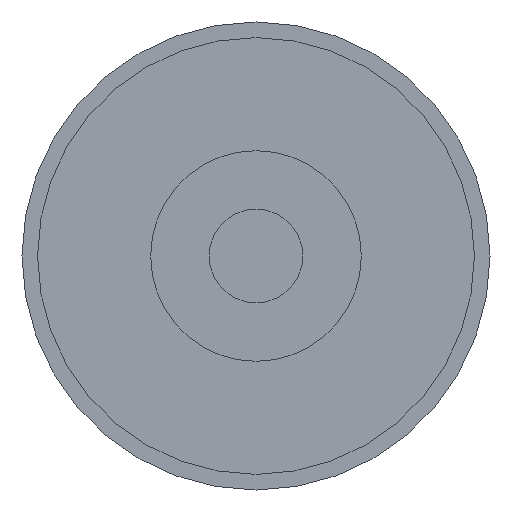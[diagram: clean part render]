
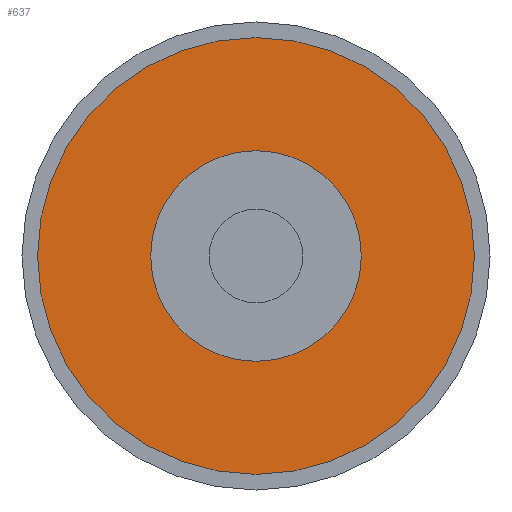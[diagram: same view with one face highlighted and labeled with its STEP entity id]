
A CAD part, front view. The second image highlights one B-rep face of the part: STEP entity #637.
In plain terms, the highlighted planar face has unit normal (0, -1, 0).
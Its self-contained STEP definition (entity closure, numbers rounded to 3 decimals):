
#151 = DIRECTION ( 'NONE',  ( 0., 1., 0. ) ) ;
#225 = CARTESIAN_POINT ( 'NONE',  ( 0., 0., 13.5 ) ) ;
#280 = DIRECTION ( 'NONE',  ( 0., 0., 1. ) ) ;
#491 = CIRCLE ( 'NONE', #4697, 28. ) ;
#637 = ADVANCED_FACE ( 'NONE', ( #3528, #4116 ), #11536, .F. ) ;
#1320 = EDGE_LOOP ( 'NONE', ( #10916, #9909 ) ) ;
#1346 = EDGE_CURVE ( 'NONE', #1584, #6478, #10179, .T. ) ;
#1584 = VERTEX_POINT ( 'NONE', #10639 ) ;
#1810 = DIRECTION ( 'NONE',  ( 0., -1., 0. ) ) ;
#2074 = DIRECTION ( 'NONE',  ( 0., 1., 0. ) ) ;
#2794 = CARTESIAN_POINT ( 'NONE',  ( 0., 0., 0. ) ) ;
#3214 = EDGE_LOOP ( 'NONE', ( #8502, #11801 ) ) ;
#3528 = FACE_OUTER_BOUND ( 'NONE', #1320, .T. ) ;
#3571 = VERTEX_POINT ( 'NONE', #11885 ) ;
#3739 = DIRECTION ( 'NONE',  ( 0., 0., -1. ) ) ;
#3917 = EDGE_CURVE ( 'NONE', #3571, #10137, #10913, .T. ) ;
#4116 = FACE_BOUND ( 'NONE', #3214, .T. ) ;
#4697 = AXIS2_PLACEMENT_3D ( 'NONE', #7694, #2074, #8633 ) ;
#5455 = AXIS2_PLACEMENT_3D ( 'NONE', #8652, #5884, #280 ) ;
#5751 = CARTESIAN_POINT ( 'NONE',  ( 0., 0., 0. ) ) ;
#5884 = DIRECTION ( 'NONE',  ( 0., 1., 0. ) ) ;
#6314 = AXIS2_PLACEMENT_3D ( 'NONE', #7432, #1810, #8379 ) ;
#6478 = VERTEX_POINT ( 'NONE', #7340 ) ;
#6575 = EDGE_CURVE ( 'NONE', #6478, #1584, #491, .T. ) ;
#6709 = DIRECTION ( 'NONE',  ( 0., 0., -1. ) ) ;
#7340 = CARTESIAN_POINT ( 'NONE',  ( 0., 0., 28. ) ) ;
#7432 = CARTESIAN_POINT ( 'NONE',  ( 0., 0., 0. ) ) ;
#7694 = CARTESIAN_POINT ( 'NONE',  ( 0., 0., 0. ) ) ;
#7729 = EDGE_CURVE ( 'NONE', #10137, #3571, #10493, .T. ) ;
#8379 = DIRECTION ( 'NONE',  ( 0., 0., -1. ) ) ;
#8502 = ORIENTED_EDGE ( 'NONE', *, *, #3917, .F. ) ;
#8523 = AXIS2_PLACEMENT_3D ( 'NONE', #2794, #9374, #3739 ) ;
#8633 = DIRECTION ( 'NONE',  ( 0., 0., -1. ) ) ;
#8652 = CARTESIAN_POINT ( 'NONE',  ( 0., 0., 0. ) ) ;
#9374 = DIRECTION ( 'NONE',  ( 0., -1., 0. ) ) ;
#9909 = ORIENTED_EDGE ( 'NONE', *, *, #6575, .F. ) ;
#10137 = VERTEX_POINT ( 'NONE', #225 ) ;
#10179 = CIRCLE ( 'NONE', #11546, 28. ) ;
#10493 = CIRCLE ( 'NONE', #6314, 13.5 ) ;
#10639 = CARTESIAN_POINT ( 'NONE',  ( 0., 0., -28. ) ) ;
#10913 = CIRCLE ( 'NONE', #8523, 13.5 ) ;
#10916 = ORIENTED_EDGE ( 'NONE', *, *, #1346, .F. ) ;
#11536 = PLANE ( 'NONE',  #5455 ) ;
#11546 = AXIS2_PLACEMENT_3D ( 'NONE', #5751, #151, #6709 ) ;
#11801 = ORIENTED_EDGE ( 'NONE', *, *, #7729, .F. ) ;
#11885 = CARTESIAN_POINT ( 'NONE',  ( 0., 0., -13.5 ) ) ;
